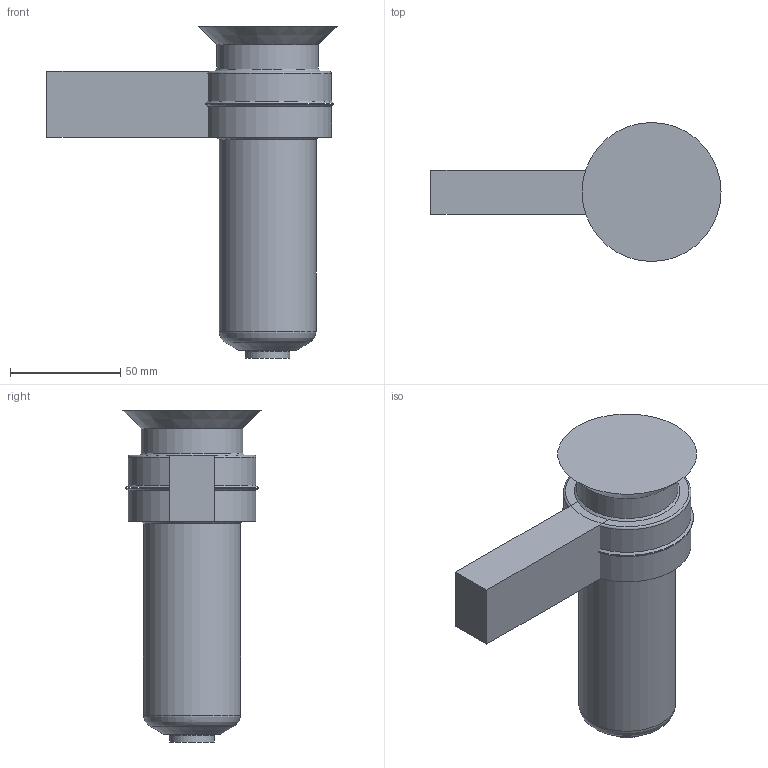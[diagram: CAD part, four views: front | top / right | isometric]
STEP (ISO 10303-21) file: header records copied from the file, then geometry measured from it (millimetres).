
FILE_DESCRIPTION(('STEP AP214'),'1');
FILE_NAME('SEDE FLS10-C.stp','2018-06-12T09:18:30',(' '),(' '),'Spatial InterOp 3D',' ',' ');
FILE_SCHEMA(('AUTOMOTIVE_DESIGN { 1 0 10303 214 1 1 1 1 }'));
Length unit declared in the file: millimetre
Products named in the file (1): 1
Bounding box: 131.5 x 63 x 150.5 mm (x, y, z)
Volume: 322950.5 mm3; surface area: 45558.5 mm2
Topology: 3 solids, 3 shells, 27 faces, 46 edges, 28 vertices
Faces by surface type: plane 13, cone 7, cylinder 5, torus 2
Full cylindrical faces by diameter (mm): 20 x1, 44 x1, 46 x1, 58 x2
Entity records: 882 total; most frequent: DIRECTION 110, CARTESIAN_POINT 88, ORIENTED_EDGE 62, AXIS2_PLACEMENT_3D 49, STYLED_ITEM 44, PRESENTATION_STYLE_ASSIGNMENT 44, EDGE_LOOP 44, COLOUR_RGB 44
